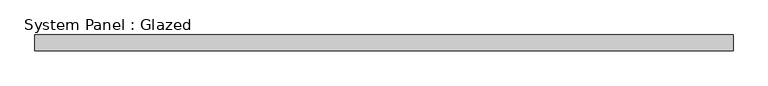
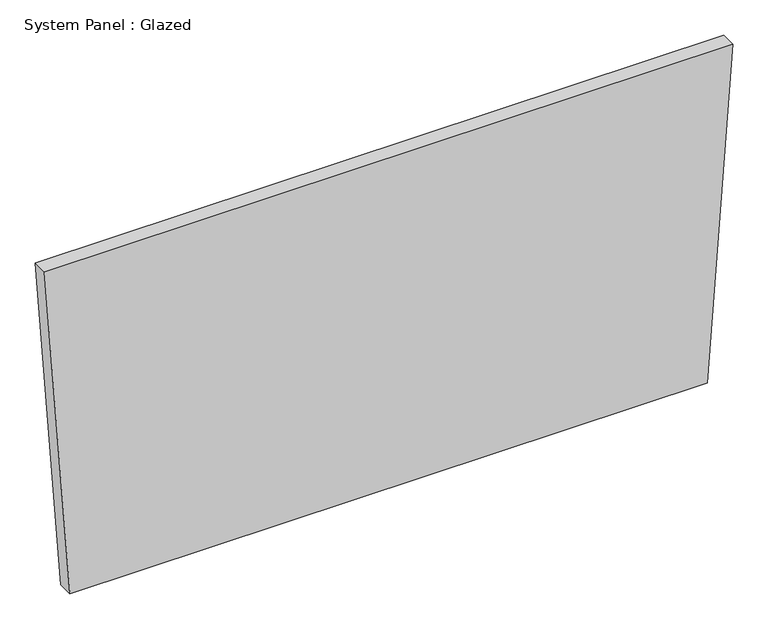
"""IFC4 building model written with IfcOpenShell, lengths in millimetres: plate geometry, System Panel : Glazed."""

from ifc_helpers import new_model, si_unit, frame, origin, place, context, project, spatial, polyline, outline, extrude, source, transform, mapped, element, save


def system_panel_glazed_479e5eac(model_context):
    return source(origin(), model_context, "Body", "SweptSolid", [
        extrude(outline(polyline([(0.0, -519.7549233), (0.0, 519.7549233), (569.8901817, 561.2535388), (569.8901817, -561.2535388), (0.0, -519.7549233)])), frame((0.0, 19.05, 0.0), z_axis=(0.0, 1.0, 0.0), x_axis=(0.0, 0.0, 1.0)), (0.0, 0.0, 1.0), 25.4),
    ])


if __name__ == "__main__":
    model = new_model("IFC4")
    model_context = context("Model", 3, world=origin())
    ifc_project = project(units=[si_unit("LENGTHUNIT", "METRE", prefix="MILLI")], contexts=[model_context])
    site = spatial("IfcSite", under=ifc_project)
    building = spatial("IfcBuilding", under=site)
    placement = place(None, origin())
    system_panel_glazed_shape = system_panel_glazed_479e5eac(model_context)
    element("IfcPlate", 1, ObjectType="System Panel : Glazed", at=placement, inside=building, context=model_context, shape_type="MappedRepresentation", body=[
        mapped(system_panel_glazed_shape, transform((0.0, 0.0, 0.0), x_axis=(1.0, 0.0, 0.0), y_axis=(0.0, 1.0, 0.0), z_axis=(0.0, 0.0, 1.0))),
    ])
    save(model, "model.ifc")
